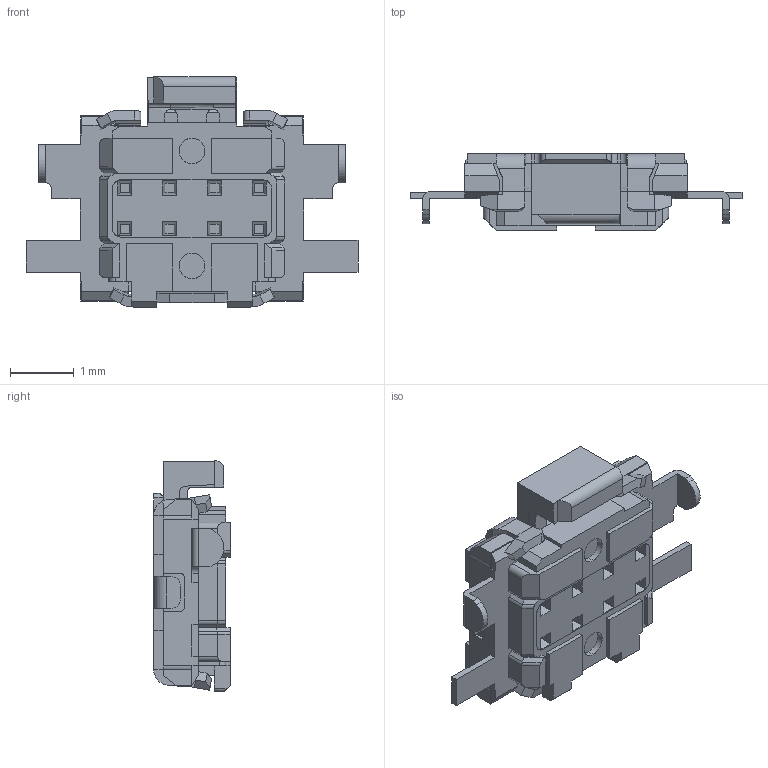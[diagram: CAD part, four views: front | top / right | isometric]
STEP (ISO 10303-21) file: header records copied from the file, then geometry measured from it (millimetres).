
FILE_DESCRIPTION (( 'STEP AP203' ), '1' );
FILE_NAME ('EVPANBE1A.STEP', '2013-07-19T01:02:11', ( '全社標準ＰＣ' ), ( 'パナソニック株式会社' ), 'SwSTEP 2.0', 'SolidWorks 2012', '' );
FILE_SCHEMA (( 'CONFIG_CONTROL_DESIGN' ));
Length unit declared in the file: millimetre
Products named in the file (1): EVPANBE1A
Bounding box: 5.2 x 1.2 x 3.62 mm (x, y, z)
Volume: 10.4 mm3; surface area: 55.5 mm2
Topology: 1 solids, 1 shells, 473 faces, 1334 edges, 868 vertices
Faces by surface type: plane 373, cylinder 98, bspline 2
Entity records: 15356 total; most frequent: CARTESIAN_POINT 3078, ORIENTED_EDGE 2668, DIRECTION 2352, EDGE_CURVE 1334, LINE 1120, VECTOR 1120, VERTEX_POINT 868, AXIS2_PLACEMENT_3D 616
